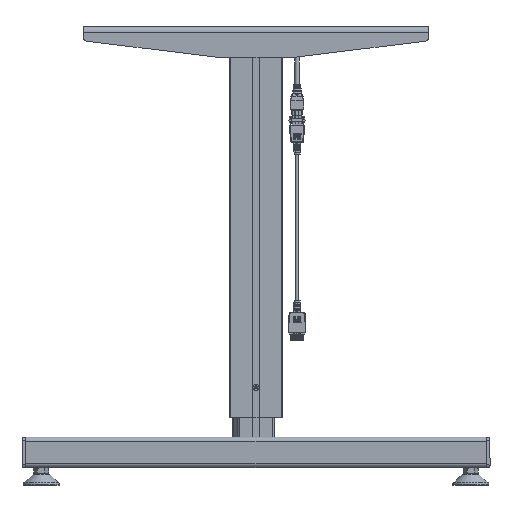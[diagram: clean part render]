
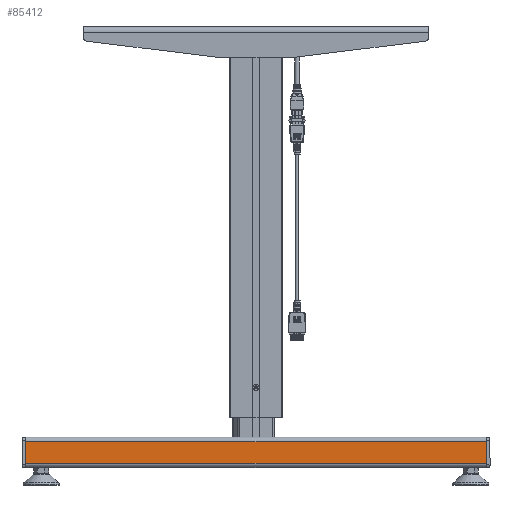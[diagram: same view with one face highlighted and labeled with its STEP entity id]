
A CAD part, left-side view. The second image highlights one B-rep face of the part: STEP entity #85412.
In plain terms, the highlighted planar face has unit normal (-1, 0, 0) as drawn and (0, -1, 0) by its records, which use the part's own axes.
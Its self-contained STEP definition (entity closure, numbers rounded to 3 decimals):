
#24402=ORIENTED_EDGE('',*,*,#34494,.T.);
#24403=ORIENTED_EDGE('',*,*,#34495,.T.);
#24404=ORIENTED_EDGE('',*,*,#34496,.F.);
#24405=ORIENTED_EDGE('',*,*,#34497,.T.);
#34494=EDGE_CURVE('',#41139,#41140,#47557,.T.);
#34495=EDGE_CURVE('',#41140,#41141,#47558,.F.);
#34496=EDGE_CURVE('',#41142,#41141,#47559,.T.);
#34497=EDGE_CURVE('',#41142,#41139,#47560,.T.);
#41139=VERTEX_POINT('',#135142);
#41140=VERTEX_POINT('',#135143);
#41141=VERTEX_POINT('',#135145);
#41142=VERTEX_POINT('',#135147);
#47557=LINE('',#135141,#53913);
#47558=LINE('',#135144,#53914);
#47559=LINE('',#135146,#53915);
#47560=LINE('',#135148,#53916);
#53913=VECTOR('',#110782,1000.);
#53914=VECTOR('',#110783,1000.);
#53915=VECTOR('',#110784,1000.);
#53916=VECTOR('',#110785,1000.);
#57669=EDGE_LOOP('',(#24402,#24403,#24404,#24405));
#61496=FACE_BOUND('',#57669,.T.);
#63612=PLANE('',#91836);
#85412=ADVANCED_FACE('',(#61496),#63612,.F.);
#91836=AXIS2_PLACEMENT_3D('',#135140,#110780,#110781);
#110780=DIRECTION('',(0.,1.,0.));
#110781=DIRECTION('',(0.,0.,1.));
#110782=DIRECTION('',(0.,0.,-1.));
#110783=DIRECTION('',(-1.,0.,0.));
#110784=DIRECTION('',(0.,0.,-1.));
#110785=DIRECTION('',(-1.,0.,0.));
#135140=CARTESIAN_POINT('',(300.,-20.,20.));
#135141=CARTESIAN_POINT('',(-300.,-20.,20.));
#135142=CARTESIAN_POINT('',(-300.,-20.,14.));
#135143=CARTESIAN_POINT('',(-300.,-20.,-14.));
#135144=CARTESIAN_POINT('',(300.,-20.,-14.));
#135145=CARTESIAN_POINT('',(300.,-20.,-14.));
#135146=CARTESIAN_POINT('',(300.,-20.,20.));
#135147=CARTESIAN_POINT('',(300.,-20.,14.));
#135148=CARTESIAN_POINT('',(300.,-20.,14.));
